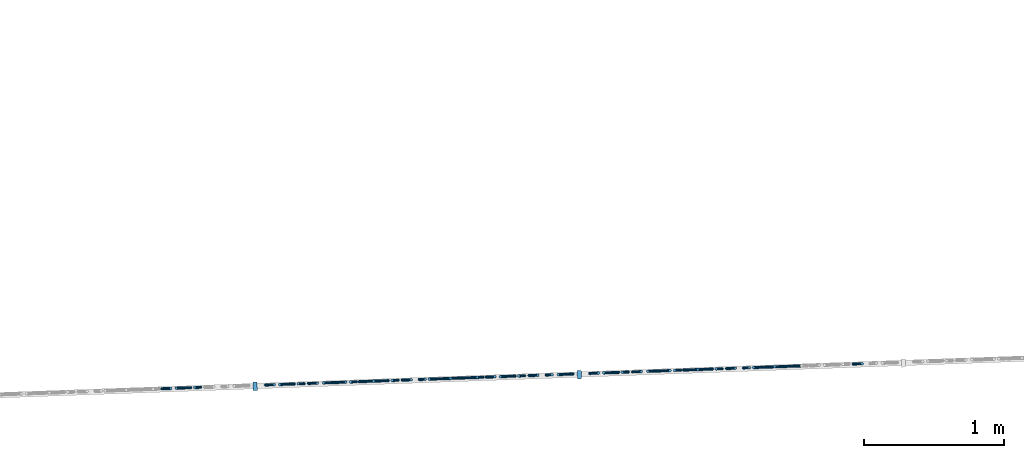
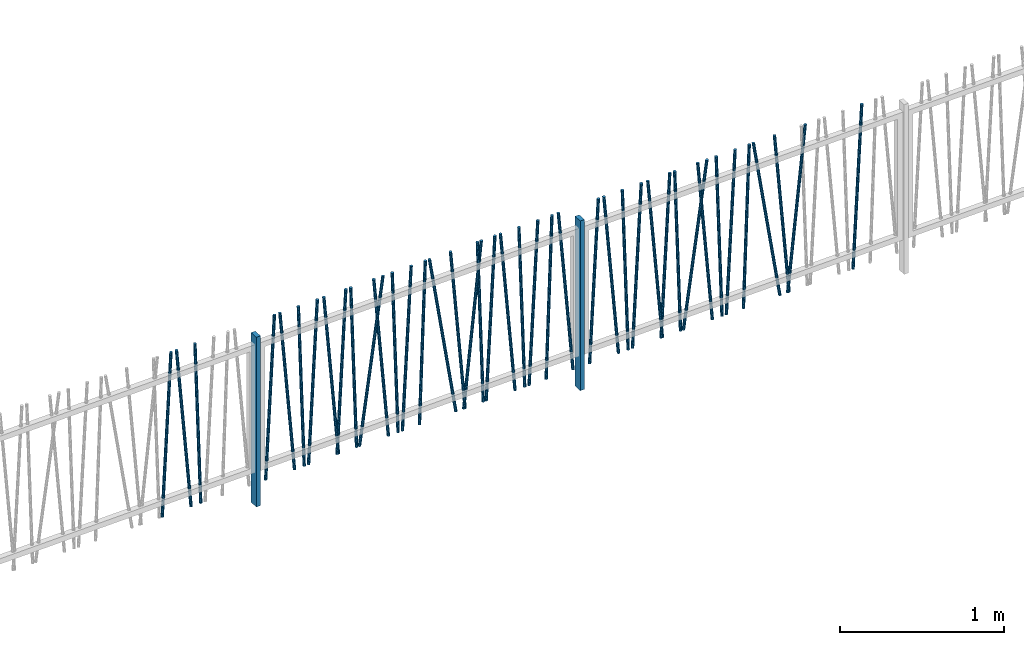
# One storey, part 2 of 171: 43 columns.
"""IFC2X3 building model written with IfcOpenShell, lengths in millimetres."""

from ifc_helpers import new_model, entity, si_unit, converted_unit, derived_unit, money_unit, direction, frame, origin_with_axes, origin_2d_with_axis, place, context, subcontext, project, spatial, rectangle, circle, extrude, clip, halfspace, material, type_object, element, save


model = new_model("IFC2X3")

# Units and contexts
model_context = context("Model", 3, precision=0.01, world=origin_with_axes(), true_north=direction((0.0, 1.0)))
body_context = subcontext(model_context, "Body", "Model", "MODEL_VIEW")
ifc_project = project(units=[si_unit("LENGTHUNIT", "METRE", prefix="MILLI"), si_unit("AREAUNIT", "SQUARE_METRE"), si_unit("VOLUMEUNIT", "CUBIC_METRE"), converted_unit("PLANEANGLEUNIT", "DEGREE", entity("IfcPlaneAngleMeasure", 0.0174532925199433), si_unit("PLANEANGLEUNIT", "RADIAN"), dimensions=[0, 0, 0, 0, 0, 0, 0]), money_unit("USD"), converted_unit("TIMEUNIT", "Year", entity("IfcTimeMeasure", 31557600.0), si_unit("TIMEUNIT", "SECOND"), dimensions=[0, 0, 1, 0, 0, 0, 0]), si_unit("MASSUNIT", "GRAM", prefix="KILO"), si_unit("THERMODYNAMICTEMPERATUREUNIT", "DEGREE_CELSIUS"), si_unit("LUMINOUSINTENSITYUNIT", "LUMEN"), si_unit("ENERGYUNIT", "JOULE", prefix="MEGA"), derived_unit("THERMALCONDUCTANCEUNIT", [(si_unit("POWERUNIT", "WATT"), 1), (si_unit("LENGTHUNIT", "METRE"), -1), (si_unit("THERMODYNAMICTEMPERATUREUNIT", "KELVIN"), -1)]), derived_unit("SPECIFICHEATCAPACITYUNIT", [(si_unit("ENERGYUNIT", "JOULE"), 1), (si_unit("MASSUNIT", "GRAM", prefix="KILO"), -1), (si_unit("THERMODYNAMICTEMPERATUREUNIT", "KELVIN"), -1)]), derived_unit("MASSDENSITYUNIT", [(si_unit("MASSUNIT", "GRAM", prefix="KILO"), 1), (si_unit("VOLUMEUNIT", "CUBIC_METRE"), -1)])], contexts=[model_context])

# Site, building, storey
site_placement = place(None, origin_with_axes())
site = spatial("IfcSite", under=ifc_project, at=site_placement, Name="Site", CompositionType="ELEMENT")
building_placement = place(site_placement, origin_with_axes())
building = spatial("IfcBuilding", under=site, at=building_placement, Name="Bâtiment", CompositionType="ELEMENT")
storey_placement = place(building_placement, frame((0.0, 0.0, 3000.0), z_axis=(0.0, 0.0, 1.0), x_axis=(1.0, 0.0, 0.0)))
storey = spatial("IfcBuildingStorey", under=building, at=storey_placement, Name="rdc", CompositionType="ELEMENT", Elevation=3000.0)

# Columns
ifc_material = material(Name="Empty Fill 2959611567")
column_type_1 = type_object("IfcColumnType", Name="Empty Fill 2959611567 D20", PredefinedType="NOTDEFINED")
column_1_placement = place(storey_placement, frame((2218070.771335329, -668109.1300341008, -1950.0), z_axis=(0.0, 0.0, 1.0), x_axis=(-0.03567989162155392, 0.9993632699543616, 0.0)))
element("IfcColumn", 1, at=column_1_placement, inside=storey, type_object=column_type_1, material=ifc_material, Name="Pilier-019", context=body_context, shape_type="Clipping", body=[
    clip(clip(extrude(circle(Radius=10.0, at=origin_2d_with_axis()), frame((0.0, -0.152502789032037, -1.743114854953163), z_axis=(0.0, 0.08715574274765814, 0.9961946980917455), x_axis=(1.0, 0.0, 0.0)), (0.0, 0.0, 1.0), 1208.083351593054), halfspace(frame((0.0, 0.0, 0.0), z_axis=(0.0, 0.0, 1.0), x_axis=(0.0, -1.0, 0.0)), True)), halfspace(frame((0.0, 0.0, 1200.0), z_axis=(0.0, 0.0, -1.0), x_axis=(0.0, 1.0, 0.0)), True)),
])
column_2_placement = place(storey_placement, frame((2217863.76282257, -668116.5207813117, -1950.0), z_axis=(0.0, 0.0, 1.0), x_axis=(0.03567989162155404, -0.9993632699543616, 0.0)))
element("IfcColumn", 2, at=column_2_placement, inside=storey, type_object=column_type_1, material=ifc_material, Name="Pilier-019", context=body_context, shape_type="Clipping", body=[
    clip(clip(extrude(circle(Radius=10.0, at=origin_2d_with_axis()), frame((0.0, -0.05485622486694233, -1.046719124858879), z_axis=(0.0, -0.05233595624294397, -0.9986295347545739), x_axis=(-1.0, 0.0, 0.0)), (0.0, 0.0, -1.0), 1203.743126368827), halfspace(frame((0.0, 0.0, 0.0), z_axis=(0.0, 0.0, 1.0), x_axis=(0.0, -1.0, 0.0)), True)), halfspace(frame((0.0, 0.0, 1200.0), z_axis=(0.0, 0.0, -1.0), x_axis=(0.0, 1.0, 0.0)), True)),
])
column_3_placement = place(storey_placement, frame((2218140.191452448, -668106.6515537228, -1950.0), z_axis=(0.0, 0.0, 1.0), x_axis=(-0.03567989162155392, 0.9993632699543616, 0.0)))
element("IfcColumn", 3, at=column_3_placement, inside=storey, type_object=column_type_1, material=ifc_material, Name="Pilier-019", context=body_context, shape_type="Clipping", body=[
    clip(clip(extrude(circle(Radius=10.0, at=origin_2d_with_axis()), frame((0.0, -0.02437434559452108, -0.6979899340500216), z_axis=(0.0, 0.03489949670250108, 0.9993908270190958), x_axis=(1.0, 0.0, 0.0)), (0.0, 0.0, 1.0), 1202.128283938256), halfspace(frame((0.0, 0.0, 0.0), z_axis=(0.0, 0.0, 1.0), x_axis=(0.0, -1.0, 0.0)), True)), halfspace(frame((0.0, 0.0, 1200.0), z_axis=(0.0, 0.0, -1.0), x_axis=(0.0, 1.0, 0.0)), True)),
])
column_4_placement = place(storey_placement, frame((2219117.615015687, -668071.7549672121, -1950.0), z_axis=(0.0, 0.0, 1.0), x_axis=(0.03567989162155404, -0.9993632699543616, 0.0)))
element("IfcColumn", 4, at=column_4_placement, inside=storey, type_object=column_type_1, material=ifc_material, Name="Pilier-019", context=body_context, shape_type="Clipping", body=[
    clip(clip(extrude(circle(Radius=10.0, at=origin_2d_with_axis()), frame((0.0, -0.05485622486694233, -1.046719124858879), z_axis=(0.0, -0.05233595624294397, -0.9986295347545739), x_axis=(-1.0, 0.0, 0.0)), (0.0, 0.0, -1.0), 1203.743126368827), halfspace(frame((0.0, 0.0, 0.0), z_axis=(0.0, 0.0, 1.0), x_axis=(0.0, -1.0, 0.0)), True)), halfspace(frame((0.0, 0.0, 1200.0), z_axis=(0.0, 0.0, -1.0), x_axis=(0.0, 1.0, 0.0)), True)),
])
column_5_placement = place(storey_placement, frame((2219554.893145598, -668056.1429903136, -1950.0), z_axis=(0.0, 0.0, 1.0), x_axis=(-0.03567989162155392, 0.9993632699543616, 0.0)))
element("IfcColumn", 5, at=column_5_placement, inside=storey, type_object=column_type_1, material=ifc_material, Name="Pilier-019", context=body_context, shape_type="Clipping", body=[
    clip(clip(extrude(circle(Radius=10.0, at=origin_2d_with_axis()), frame((0.0, -0.02437434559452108, -0.6979899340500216), z_axis=(0.0, 0.03489949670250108, 0.9993908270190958), x_axis=(1.0, 0.0, 0.0)), (0.0, 0.0, 1.0), 1202.128283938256), halfspace(frame((0.0, 0.0, 0.0), z_axis=(0.0, 0.0, 1.0), x_axis=(0.0, -1.0, 0.0)), True)), halfspace(frame((0.0, 0.0, 1200.0), z_axis=(0.0, 0.0, -1.0), x_axis=(0.0, 1.0, 0.0)), True)),
])
column_6_placement = place(storey_placement, frame((2219586.166374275, -668055.0264539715, -1950.0), z_axis=(0.0, 0.0, 1.0), x_axis=(0.03567989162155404, -0.9993632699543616, 0.0)))
element("IfcColumn", 6, at=column_6_placement, inside=storey, type_object=column_type_1, material=ifc_material, Name="Pilier-019", context=body_context, shape_type="Clipping", body=[
    clip(clip(extrude(circle(Radius=10.0, at=origin_2d_with_axis()), frame((0.0, -0.05485622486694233, -1.046719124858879), z_axis=(0.0, -0.05233595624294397, -0.9986295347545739), x_axis=(-1.0, 0.0, 0.0)), (0.0, 0.0, -1.0), 1203.743126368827), halfspace(frame((0.0, 0.0, 0.0), z_axis=(0.0, 0.0, 1.0), x_axis=(0.0, -1.0, 0.0)), True)), halfspace(frame((0.0, 0.0, 1200.0), z_axis=(0.0, 0.0, -1.0), x_axis=(0.0, 1.0, 0.0)), True)),
])
column_7_placement = place(storey_placement, frame((2219969.593255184, -668041.337107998, -1950.0), z_axis=(0.0, 0.0, 1.0), x_axis=(-0.03567989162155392, 0.9993632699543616, 0.0)))
element("IfcColumn", 7, at=column_7_placement, inside=storey, type_object=column_type_1, material=ifc_material, Name="Pilier-019", context=body_context, shape_type="Clipping", body=[
    clip(clip(extrude(circle(Radius=10.0, at=origin_2d_with_axis()), frame((0.0, -0.4955357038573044, -3.128689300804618), z_axis=(0.0, 0.1564344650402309, 0.9876883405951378), x_axis=(1.0, 0.0, 0.0)), (0.0, 0.0, 1.0), 1221.293528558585), halfspace(frame((0.0, 0.0, 0.0), z_axis=(0.0, 0.0, 1.0), x_axis=(0.0, -1.0, 0.0)), True)), halfspace(frame((0.0, 0.0, 1200.0), z_axis=(0.0, 0.0, -1.0), x_axis=(0.0, 1.0, 0.0)), True)),
])
for number, where, z_axis, x_axis, name in (
    (8, (2220809.176961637, -668011.3617661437, -1950.0), (0.0, 0.0, 1.0), (-0.03567989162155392, 0.9993632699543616, 0.0), "Pilier-019"),
    (9, (2220035.799577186, -668038.9733685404, -1950.0), (0.0, 0.0, 1.0), (-0.03567989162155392, 0.9993632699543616, 0.0), "Pilier-019"),
):
    element("IfcColumn", number, at=place(storey_placement, frame(where, z_axis=z_axis, x_axis=x_axis)), inside=storey, type_object=column_type_1, material=ifc_material, Name=name, context=body_context, shape_type="Clipping", body=[
        clip(clip(extrude(circle(Radius=10.0, at=origin_2d_with_axis()), frame((0.0, -0.152502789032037, -1.743114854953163), z_axis=(0.0, 0.08715574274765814, 0.9961946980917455), x_axis=(1.0, 0.0, 0.0)), (0.0, 0.0, 1.0), 1208.083351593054), halfspace(frame((0.0, 0.0, 0.0), z_axis=(0.0, 0.0, 1.0), x_axis=(0.0, -1.0, 0.0)), True)), halfspace(frame((0.0, 0.0, 1200.0), z_axis=(0.0, 0.0, -1.0), x_axis=(0.0, 1.0, 0.0)), True)),
    ])
column_8_placement = place(storey_placement, frame((2218913.159377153, -668079.054570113, -1950.0), z_axis=(0.0, 0.0, 1.0), x_axis=(0.03567989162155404, -0.9993632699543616, 0.0)))
element("IfcColumn", 10, at=column_8_placement, inside=storey, type_object=column_type_1, material=ifc_material, Name="Pilier-019", context=body_context, shape_type="Clipping", body=[
    clip(clip(extrude(circle(Radius=10.0, at=origin_2d_with_axis()), frame((0.0, -0.05485622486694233, -1.046719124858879), z_axis=(0.0, -0.05233595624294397, -0.9986295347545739), x_axis=(-1.0, 0.0, 0.0)), (0.0, 0.0, -1.0), 1203.743126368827), halfspace(frame((0.0, 0.0, 0.0), z_axis=(0.0, 0.0, 1.0), x_axis=(0.0, -1.0, 0.0)), True)), halfspace(frame((0.0, 0.0, 1200.0), z_axis=(0.0, 0.0, -1.0), x_axis=(0.0, 1.0, 0.0)), True)),
])
for number, where, z_axis, x_axis, name in (
    (11, (2219257.3435957, -668066.7662901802, -1950.0), (0.0, 0.0, 1.0), (-0.03567989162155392, 0.9993632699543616, 0.0), "Pilier-019"),
    (12, (2218881.886148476, -668080.171106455, -1950.0), (0.0, 0.0, 1.0), (-0.03567989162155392, 0.9993632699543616, 0.0), "Pilier-019"),
):
    element("IfcColumn", number, at=place(storey_placement, frame(where, z_axis=z_axis, x_axis=x_axis)), inside=storey, type_object=column_type_1, material=ifc_material, Name=name, context=body_context, shape_type="Clipping", body=[
        clip(clip(extrude(circle(Radius=10.0, at=origin_2d_with_axis()), frame((0.0, -0.02437434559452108, -0.6979899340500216), z_axis=(0.0, 0.03489949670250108, 0.9993908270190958), x_axis=(1.0, 0.0, 0.0)), (0.0, 0.0, 1.0), 1202.128283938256), halfspace(frame((0.0, 0.0, 0.0), z_axis=(0.0, 0.0, 1.0), x_axis=(0.0, -1.0, 0.0)), True)), halfspace(frame((0.0, 0.0, 1200.0), z_axis=(0.0, 0.0, -1.0), x_axis=(0.0, 1.0, 0.0)), True)),
    ])
column_9_placement = place(storey_placement, frame((2219278.46451572, -668066.0122179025, -1950.0), z_axis=(0.0, 0.0, 1.0), x_axis=(0.03567989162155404, -0.9993632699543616, 0.0)))
element("IfcColumn", 13, at=column_9_placement, inside=storey, type_object=column_type_1, material=ifc_material, Name="Pilier-019", context=body_context, shape_type="Clipping", body=[
    clip(clip(extrude(circle(Radius=10.0, at=origin_2d_with_axis()), frame((0.0, -0.3911900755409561, -2.78346201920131), z_axis=(0.0, -0.1391731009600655, -0.9902680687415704), x_axis=(-1.0, 0.0, 0.0)), (0.0, 0.0, -1.0), 1217.414720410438), halfspace(frame((0.0, 0.0, 0.0), z_axis=(0.0, 0.0, 1.0), x_axis=(0.0, -1.0, 0.0)), True)), halfspace(frame((0.0, 0.0, 1200.0), z_axis=(0.0, 0.0, -1.0), x_axis=(0.0, 1.0, 0.0)), True)),
])
column_10_placement = place(storey_placement, frame((2219485.473028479, -668058.6214706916, -1950.0), z_axis=(0.0, 0.0, 1.0), x_axis=(-0.03567989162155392, 0.9993632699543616, 0.0)))
element("IfcColumn", 14, at=column_10_placement, inside=storey, type_object=column_type_1, material=ifc_material, Name="Pilier-019", context=body_context, shape_type="Clipping", body=[
    clip(clip(extrude(circle(Radius=10.0, at=origin_2d_with_axis()), frame((0.0, -0.152502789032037, -1.743114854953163), z_axis=(0.0, 0.08715574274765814, 0.9961946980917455), x_axis=(1.0, 0.0, 0.0)), (0.0, 0.0, 1.0), 1208.083351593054), halfspace(frame((0.0, 0.0, 0.0), z_axis=(0.0, 0.0, 1.0), x_axis=(0.0, -1.0, 0.0)), True)), halfspace(frame((0.0, 0.0, 1200.0), z_axis=(0.0, 0.0, -1.0), x_axis=(0.0, 1.0, 0.0)), True)),
])
column_11_placement = place(storey_placement, frame((2220025.901242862, -668039.3267650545, -1950.0), z_axis=(0.0, 0.0, 1.0), x_axis=(0.03567989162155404, -0.9993632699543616, 0.0)))
element("IfcColumn", 15, at=column_11_placement, inside=storey, type_object=column_type_1, material=ifc_material, Name="Pilier-019", context=body_context, shape_type="Clipping", body=[
    clip(clip(extrude(circle(Radius=10.0, at=origin_2d_with_axis()), frame((0.0, -0.2197276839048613, -2.090569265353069), z_axis=(0.0, -0.1045284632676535, -0.9945218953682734), x_axis=(-1.0, 0.0, 0.0)), (0.0, 0.0, -1.0), 1210.814104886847), halfspace(frame((0.0, 0.0, 0.0), z_axis=(0.0, 0.0, 1.0), x_axis=(0.0, -1.0, 0.0)), True)), halfspace(frame((0.0, 0.0, 1200.0), z_axis=(0.0, 0.0, -1.0), x_axis=(0.0, 1.0, 0.0)), True)),
])
column_12_placement = place(storey_placement, frame((2220463.179372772, -668023.714788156, -1950.0), z_axis=(0.0, 0.0, 1.0), x_axis=(-0.03567989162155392, 0.9993632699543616, 0.0)))
element("IfcColumn", 16, at=column_12_placement, inside=storey, type_object=column_type_1, material=ifc_material, Name="Pilier-019", context=body_context, shape_type="Clipping", body=[
    clip(clip(extrude(circle(Radius=10.0, at=origin_2d_with_axis()), frame((0.0, -0.02437434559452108, -0.6979899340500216), z_axis=(0.0, 0.03489949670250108, 0.9993908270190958), x_axis=(1.0, 0.0, 0.0)), (0.0, 0.0, 1.0), 1202.128283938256), halfspace(frame((0.0, 0.0, 0.0), z_axis=(0.0, 0.0, 1.0), x_axis=(0.0, -1.0, 0.0)), True)), halfspace(frame((0.0, 0.0, 1200.0), z_axis=(0.0, 0.0, -1.0), x_axis=(0.0, 1.0, 0.0)), True)),
])
column_13_placement = place(storey_placement, frame((2220494.452601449, -668022.598251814, -1950.0), z_axis=(0.0, 0.0, 1.0), x_axis=(0.03567989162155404, -0.9993632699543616, 0.0)))
element("IfcColumn", 17, at=column_13_placement, inside=storey, type_object=column_type_1, material=ifc_material, Name="Pilier-019", context=body_context, shape_type="Clipping", body=[
    clip(clip(extrude(circle(Radius=10.0, at=origin_2d_with_axis()), frame((0.0, -0.05485622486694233, -1.046719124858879), z_axis=(0.0, -0.05233595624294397, -0.9986295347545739), x_axis=(-1.0, 0.0, 0.0)), (0.0, 0.0, -1.0), 1203.743126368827), halfspace(frame((0.0, 0.0, 0.0), z_axis=(0.0, 0.0, 1.0), x_axis=(0.0, -1.0, 0.0)), True)), halfspace(frame((0.0, 0.0, 1200.0), z_axis=(0.0, 0.0, -1.0), x_axis=(0.0, 1.0, 0.0)), True)),
])
column_14_placement = place(storey_placement, frame((2219127.513350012, -668071.4015706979, -1950.0), z_axis=(0.0, 0.0, 1.0), x_axis=(-0.03567989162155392, 0.9993632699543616, 0.0)))
element("IfcColumn", 18, at=column_14_placement, inside=storey, type_object=column_type_1, material=ifc_material, Name="Pilier-019", context=body_context, shape_type="Clipping", body=[
    clip(clip(extrude(circle(Radius=10.0, at=origin_2d_with_axis()), frame((0.0, -0.152502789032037, -1.743114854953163), z_axis=(0.0, 0.08715574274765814, 0.9961946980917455), x_axis=(1.0, 0.0, 0.0)), (0.0, 0.0, 1.0), 1208.083351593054), halfspace(frame((0.0, 0.0, 0.0), z_axis=(0.0, 0.0, 1.0), x_axis=(0.0, -1.0, 0.0)), True)), halfspace(frame((0.0, 0.0, 1200.0), z_axis=(0.0, 0.0, -1.0), x_axis=(0.0, 1.0, 0.0)), True)),
])
column_15_placement = place(storey_placement, frame((2220616.707676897, -668018.2334247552, -1950.0), z_axis=(0.0, 0.0, 1.0), x_axis=(0.03567989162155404, -0.9993632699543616, 0.0)))
element("IfcColumn", 19, at=column_15_placement, inside=storey, type_object=column_type_1, material=ifc_material, Name="Pilier-019", context=body_context, shape_type="Clipping", body=[
    clip(clip(extrude(circle(Radius=10.0, at=origin_2d_with_axis()), frame((0.0, -0.02437434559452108, -0.6979899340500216), z_axis=(0.0, -0.03489949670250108, -0.9993908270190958), x_axis=(-1.0, 0.0, 0.0)), (0.0, 0.0, -1.0), 1202.128283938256), halfspace(frame((0.0, 0.0, 0.0), z_axis=(0.0, 0.0, 1.0), x_axis=(0.0, -1.0, 0.0)), True)), halfspace(frame((0.0, 0.0, 1200.0), z_axis=(0.0, 0.0, -1.0), x_axis=(0.0, 1.0, 0.0)), True)),
])
column_16_placement = place(storey_placement, frame((2220186.750742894, -668033.5840157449, -1950.0), z_axis=(0.0, 0.0, 1.0), x_axis=(0.03567989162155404, -0.9993632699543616, 0.0)))
element("IfcColumn", 20, at=column_16_placement, inside=storey, type_object=column_type_1, material=ifc_material, Name="Pilier-019", context=body_context, shape_type="Clipping", body=[
    clip(clip(extrude(circle(Radius=10.0, at=origin_2d_with_axis()), frame((0.0, -0.05485622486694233, -1.046719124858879), z_axis=(0.0, -0.05233595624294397, -0.9986295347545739), x_axis=(-1.0, 0.0, 0.0)), (0.0, 0.0, -1.0), 1203.743126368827), halfspace(frame((0.0, 0.0, 0.0), z_axis=(0.0, 0.0, 1.0), x_axis=(0.0, -1.0, 0.0)), True)), halfspace(frame((0.0, 0.0, 1200.0), z_axis=(0.0, 0.0, -1.0), x_axis=(0.0, 1.0, 0.0)), True)),
])
column_17_placement = place(storey_placement, frame((2220393.759255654, -668026.193268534, -1950.0), z_axis=(0.0, 0.0, 1.0), x_axis=(-0.03567989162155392, 0.9993632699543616, 0.0)))
element("IfcColumn", 21, at=column_17_placement, inside=storey, type_object=column_type_1, material=ifc_material, Name="Pilier-019", context=body_context, shape_type="Clipping", body=[
    clip(clip(extrude(circle(Radius=10.0, at=origin_2d_with_axis()), frame((0.0, -0.152502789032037, -1.743114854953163), z_axis=(0.0, 0.08715574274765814, 0.9961946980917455), x_axis=(1.0, 0.0, 0.0)), (0.0, 0.0, 1.0), 1208.083351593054), halfspace(frame((0.0, 0.0, 0.0), z_axis=(0.0, 0.0, 1.0), x_axis=(0.0, -1.0, 0.0)), True)), halfspace(frame((0.0, 0.0, 1200.0), z_axis=(0.0, 0.0, -1.0), x_axis=(0.0, 1.0, 0.0)), True)),
])
column_18_placement = place(storey_placement, frame((2220165.629822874, -668034.3380880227, -1950.0), z_axis=(0.0, 0.0, 1.0), x_axis=(-0.03567989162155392, 0.9993632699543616, 0.0)))
element("IfcColumn", 22, at=column_18_placement, inside=storey, type_object=column_type_1, material=ifc_material, Name="Pilier-019", context=body_context, shape_type="Clipping", body=[
    clip(clip(extrude(circle(Radius=10.0, at=origin_2d_with_axis()), frame((0.0, -0.02437434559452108, -0.6979899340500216), z_axis=(0.0, 0.03489949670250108, 0.9993908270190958), x_axis=(1.0, 0.0, 0.0)), (0.0, 0.0, 1.0), 1202.128283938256), halfspace(frame((0.0, 0.0, 0.0), z_axis=(0.0, 0.0, 1.0), x_axis=(0.0, -1.0, 0.0)), True)), halfspace(frame((0.0, 0.0, 1200.0), z_axis=(0.0, 0.0, -1.0), x_axis=(0.0, 1.0, 0.0)), True)),
])
column_19_placement = place(storey_placement, frame((2218812.466031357, -668082.6495868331, -1950.0), z_axis=(0.0, 0.0, 1.0), x_axis=(-0.03567989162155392, 0.9993632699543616, 0.0)))
element("IfcColumn", 23, at=column_19_placement, inside=storey, type_object=column_type_1, material=ifc_material, Name="Pilier-019", context=body_context, shape_type="Clipping", body=[
    clip(clip(extrude(circle(Radius=10.0, at=origin_2d_with_axis()), frame((0.0, -0.152502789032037, -1.743114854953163), z_axis=(0.0, 0.08715574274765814, 0.9961946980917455), x_axis=(1.0, 0.0, 0.0)), (0.0, 0.0, 1.0), 1208.083351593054), halfspace(frame((0.0, 0.0, 0.0), z_axis=(0.0, 0.0, 1.0), x_axis=(0.0, -1.0, 0.0)), True)), halfspace(frame((0.0, 0.0, 1200.0), z_axis=(0.0, 0.0, -1.0), x_axis=(0.0, 1.0, 0.0)), True)),
])
for number, where, z_axis, x_axis, name in (
    (24, (2218605.457518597, -668090.0403340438, -1950.0), (0.0, 0.0, 1.0), (0.03567989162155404, -0.9993632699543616, 0.0), "Pilier-019"),
    (25, (2221440.602936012, -667988.8182016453, -1950.0), (0.0, 0.0, 1.0), (0.03567989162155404, -0.9993632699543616, 0.0), "Pilier-019"),
):
    element("IfcColumn", number, at=place(storey_placement, frame(where, z_axis=z_axis, x_axis=x_axis)), inside=storey, type_object=column_type_1, material=ifc_material, Name=name, context=body_context, shape_type="Clipping", body=[
        clip(clip(extrude(circle(Radius=10.0, at=origin_2d_with_axis()), frame((0.0, -0.05485622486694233, -1.046719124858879), z_axis=(0.0, -0.05233595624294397, -0.9986295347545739), x_axis=(-1.0, 0.0, 0.0)), (0.0, 0.0, -1.0), 1203.743126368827), halfspace(frame((0.0, 0.0, 0.0), z_axis=(0.0, 0.0, 1.0), x_axis=(0.0, -1.0, 0.0)), True)), halfspace(frame((0.0, 0.0, 1200.0), z_axis=(0.0, 0.0, -1.0), x_axis=(0.0, 1.0, 0.0)), True)),
    ])
column_20_placement = place(storey_placement, frame((2222031.409370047, -667967.724861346, -1950.0), z_axis=(0.0, 0.0, 1.0), x_axis=(0.03567989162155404, -0.9993632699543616, 0.0)))
element("IfcColumn", 26, at=column_20_placement, inside=storey, type_object=column_type_1, material=ifc_material, Name="Pilier-019", context=body_context, shape_type="Clipping", body=[
    clip(clip(extrude(circle(Radius=10.0, at=origin_2d_with_axis()), frame((0.0, -0.02437434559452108, -0.6979899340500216), z_axis=(0.0, -0.03489949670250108, -0.9993908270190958), x_axis=(-1.0, 0.0, 0.0)), (0.0, 0.0, -1.0), 1202.128283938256), halfspace(frame((0.0, 0.0, 0.0), z_axis=(0.0, 0.0, 1.0), x_axis=(0.0, -1.0, 0.0)), True)), halfspace(frame((0.0, 0.0, 1200.0), z_axis=(0.0, 0.0, -1.0), x_axis=(0.0, 1.0, 0.0)), True)),
])
column_21_placement = place(storey_placement, frame((2221580.331516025, -667983.8295246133, -1950.0), z_axis=(0.0, 0.0, 1.0), x_axis=(-0.03567989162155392, 0.9993632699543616, 0.0)))
element("IfcColumn", 27, at=column_21_placement, inside=storey, type_object=column_type_1, material=ifc_material, Name="Pilier-019", context=body_context, shape_type="Clipping", body=[
    clip(clip(extrude(circle(Radius=10.0, at=origin_2d_with_axis()), frame((0.0, -0.02437434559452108, -0.6979899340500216), z_axis=(0.0, 0.03489949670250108, 0.9993908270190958), x_axis=(1.0, 0.0, 0.0)), (0.0, 0.0, 1.0), 1202.128283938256), halfspace(frame((0.0, 0.0, 0.0), z_axis=(0.0, 0.0, 1.0), x_axis=(0.0, -1.0, 0.0)), True)), halfspace(frame((0.0, 0.0, 1200.0), z_axis=(0.0, 0.0, -1.0), x_axis=(0.0, 1.0, 0.0)), True)),
])
column_22_placement = place(storey_placement, frame((2221909.154294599, -667972.0896884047, -1950.0), z_axis=(0.0, 0.0, 1.0), x_axis=(0.03567989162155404, -0.9993632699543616, 0.0)))
element("IfcColumn", 28, at=column_22_placement, inside=storey, type_object=column_type_1, material=ifc_material, Name="Pilier-019", context=body_context, shape_type="Clipping", body=[
    clip(clip(extrude(circle(Radius=10.0, at=origin_2d_with_axis()), frame((0.0, -0.05485622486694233, -1.046719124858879), z_axis=(0.0, -0.05233595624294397, -0.9986295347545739), x_axis=(-1.0, 0.0, 0.0)), (0.0, 0.0, -1.0), 1203.743126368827), halfspace(frame((0.0, 0.0, 0.0), z_axis=(0.0, 0.0, 1.0), x_axis=(0.0, -1.0, 0.0)), True)), halfspace(frame((0.0, 0.0, 1200.0), z_axis=(0.0, 0.0, -1.0), x_axis=(0.0, 1.0, 0.0)), True)),
])
column_23_placement = place(storey_placement, frame((2222292.581175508, -667958.4003424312, -1950.0), z_axis=(0.0, 0.0, 1.0), x_axis=(-0.03567989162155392, 0.9993632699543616, 0.0)))
element("IfcColumn", 29, at=column_23_placement, inside=storey, type_object=column_type_1, material=ifc_material, Name="Pilier-019", context=body_context, shape_type="Clipping", body=[
    clip(clip(extrude(circle(Radius=10.0, at=origin_2d_with_axis()), frame((0.0, -0.4955357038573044, -3.128689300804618), z_axis=(0.0, 0.1564344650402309, 0.9876883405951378), x_axis=(1.0, 0.0, 0.0)), (0.0, 0.0, 1.0), 1221.293528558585), halfspace(frame((0.0, 0.0, 0.0), z_axis=(0.0, 0.0, 1.0), x_axis=(0.0, -1.0, 0.0)), True)), halfspace(frame((0.0, 0.0, 1200.0), z_axis=(0.0, 0.0, -1.0), x_axis=(0.0, 1.0, 0.0)), True)),
])
column_24_placement = place(storey_placement, frame((2222358.78749751, -667956.0366029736, -1950.0), z_axis=(0.0, 0.0, 1.0), x_axis=(-0.03567989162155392, 0.9993632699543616, 0.0)))
element("IfcColumn", 30, at=column_24_placement, inside=storey, type_object=column_type_1, material=ifc_material, Name="Pilier-019", context=body_context, shape_type="Clipping", body=[
    clip(clip(extrude(circle(Radius=10.0, at=origin_2d_with_axis()), frame((0.0, -0.152502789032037, -1.743114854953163), z_axis=(0.0, 0.08715574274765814, 0.9961946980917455), x_axis=(1.0, 0.0, 0.0)), (0.0, 0.0, 1.0), 1208.083351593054), halfspace(frame((0.0, 0.0, 0.0), z_axis=(0.0, 0.0, 1.0), x_axis=(0.0, -1.0, 0.0)), True)), halfspace(frame((0.0, 0.0, 1200.0), z_axis=(0.0, 0.0, -1.0), x_axis=(0.0, 1.0, 0.0)), True)),
])
column_25_placement = place(storey_placement, frame((2221877.881065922, -667973.2062247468, -1950.0), z_axis=(0.0, 0.0, 1.0), x_axis=(-0.03567989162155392, 0.9993632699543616, 0.0)))
element("IfcColumn", 31, at=column_25_placement, inside=storey, type_object=column_type_1, material=ifc_material, Name="Pilier-019", context=body_context, shape_type="Clipping", body=[
    clip(clip(extrude(circle(Radius=10.0, at=origin_2d_with_axis()), frame((0.0, -0.02437434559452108, -0.6979899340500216), z_axis=(0.0, 0.03489949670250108, 0.9993908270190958), x_axis=(1.0, 0.0, 0.0)), (0.0, 0.0, 1.0), 1202.128283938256), halfspace(frame((0.0, 0.0, 0.0), z_axis=(0.0, 0.0, 1.0), x_axis=(0.0, -1.0, 0.0)), True)), halfspace(frame((0.0, 0.0, 1200.0), z_axis=(0.0, 0.0, -1.0), x_axis=(0.0, 1.0, 0.0)), True)),
])
column_26_placement = place(storey_placement, frame((2221450.501270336, -667988.4648051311, -1950.0), z_axis=(0.0, 0.0, 1.0), x_axis=(-0.03567989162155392, 0.9993632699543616, 0.0)))
element("IfcColumn", 32, at=column_26_placement, inside=storey, type_object=column_type_1, material=ifc_material, Name="Pilier-019", context=body_context, shape_type="Clipping", body=[
    clip(clip(extrude(circle(Radius=10.0, at=origin_2d_with_axis()), frame((0.0, -0.152502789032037, -1.743114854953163), z_axis=(0.0, 0.08715574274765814, 0.9961946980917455), x_axis=(1.0, 0.0, 0.0)), (0.0, 0.0, 1.0), 1208.083351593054), halfspace(frame((0.0, 0.0, 0.0), z_axis=(0.0, 0.0, 1.0), x_axis=(0.0, -1.0, 0.0)), True)), halfspace(frame((0.0, 0.0, 1200.0), z_axis=(0.0, 0.0, -1.0), x_axis=(0.0, 1.0, 0.0)), True)),
])
column_27_placement = place(storey_placement, frame((2221204.874068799, -667997.2343408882, -1950.0), z_axis=(0.0, 0.0, 1.0), x_axis=(-0.03567989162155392, 0.9993632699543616, 0.0)))
element("IfcColumn", 33, at=column_27_placement, inside=storey, type_object=column_type_1, material=ifc_material, Name="Pilier-019", context=body_context, shape_type="Clipping", body=[
    clip(clip(extrude(circle(Radius=10.0, at=origin_2d_with_axis()), frame((0.0, -0.02437434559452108, -0.6979899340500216), z_axis=(0.0, 0.03489949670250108, 0.9993908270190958), x_axis=(1.0, 0.0, 0.0)), (0.0, 0.0, 1.0), 1202.128283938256), halfspace(frame((0.0, 0.0, 0.0), z_axis=(0.0, 0.0, 1.0), x_axis=(0.0, -1.0, 0.0)), True)), halfspace(frame((0.0, 0.0, 1200.0), z_axis=(0.0, 0.0, -1.0), x_axis=(0.0, 1.0, 0.0)), True)),
])
column_28_placement = place(storey_placement, frame((2221808.460948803, -667975.6847051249, -1950.0), z_axis=(0.0, 0.0, 1.0), x_axis=(-0.03567989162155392, 0.9993632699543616, 0.0)))
element("IfcColumn", 34, at=column_28_placement, inside=storey, type_object=column_type_1, material=ifc_material, Name="Pilier-019", context=body_context, shape_type="Clipping", body=[
    clip(clip(extrude(circle(Radius=10.0, at=origin_2d_with_axis()), frame((0.0, -0.152502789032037, -1.743114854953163), z_axis=(0.0, 0.08715574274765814, 0.9961946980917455), x_axis=(1.0, 0.0, 0.0)), (0.0, 0.0, 1.0), 1208.083351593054), halfspace(frame((0.0, 0.0, 0.0), z_axis=(0.0, 0.0, 1.0), x_axis=(0.0, -1.0, 0.0)), True)), halfspace(frame((0.0, 0.0, 1200.0), z_axis=(0.0, 0.0, -1.0), x_axis=(0.0, 1.0, 0.0)), True)),
])
column_29_placement = place(storey_placement, frame((2221601.452436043, -667983.0754523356, -1950.0), z_axis=(0.0, 0.0, 1.0), x_axis=(0.03567989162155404, -0.9993632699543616, 0.0)))
element("IfcColumn", 35, at=column_29_placement, inside=storey, type_object=column_type_1, material=ifc_material, Name="Pilier-019", context=body_context, shape_type="Clipping", body=[
    clip(clip(extrude(circle(Radius=10.0, at=origin_2d_with_axis()), frame((0.0, -0.3911900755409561, -2.78346201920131), z_axis=(0.0, -0.1391731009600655, -0.9902680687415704), x_axis=(-1.0, 0.0, 0.0)), (0.0, 0.0, -1.0), 1217.414720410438), halfspace(frame((0.0, 0.0, 0.0), z_axis=(0.0, 0.0, 1.0), x_axis=(0.0, -1.0, 0.0)), True)), halfspace(frame((0.0, 0.0, 1200.0), z_axis=(0.0, 0.0, -1.0), x_axis=(0.0, 1.0, 0.0)), True)),
])
column_30_placement = place(storey_placement, frame((2222817.440521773, -667939.6614862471, -1950.0), z_axis=(0.0, 0.0, 1.0), x_axis=(0.03567989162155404, -0.9993632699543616, 0.0)))
element("IfcColumn", 36, at=column_30_placement, inside=storey, type_object=column_type_1, material=ifc_material, Name="Pilier-019", context=body_context, shape_type="Clipping", body=[
    clip(clip(extrude(circle(Radius=10.0, at=origin_2d_with_axis()), frame((0.0, -0.05485622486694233, -1.046719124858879), z_axis=(0.0, -0.05233595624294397, -0.9986295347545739), x_axis=(-1.0, 0.0, 0.0)), (0.0, 0.0, -1.0), 1203.743126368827), halfspace(frame((0.0, 0.0, 0.0), z_axis=(0.0, 0.0, 1.0), x_axis=(0.0, -1.0, 0.0)), True)), halfspace(frame((0.0, 0.0, 1200.0), z_axis=(0.0, 0.0, -1.0), x_axis=(0.0, 1.0, 0.0)), True)),
])
column_31_placement = place(storey_placement, frame((2222348.889163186, -667956.3899994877, -1950.0), z_axis=(0.0, 0.0, 1.0), x_axis=(0.03567989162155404, -0.9993632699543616, 0.0)))
element("IfcColumn", 37, at=column_31_placement, inside=storey, type_object=column_type_1, material=ifc_material, Name="Pilier-019", context=body_context, shape_type="Clipping", body=[
    clip(clip(extrude(circle(Radius=10.0, at=origin_2d_with_axis()), frame((0.0, -0.2197276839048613, -2.090569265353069), z_axis=(0.0, -0.1045284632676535, -0.9945218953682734), x_axis=(-1.0, 0.0, 0.0)), (0.0, 0.0, -1.0), 1210.814104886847), halfspace(frame((0.0, 0.0, 0.0), z_axis=(0.0, 0.0, 1.0), x_axis=(0.0, -1.0, 0.0)), True)), halfspace(frame((0.0, 0.0, 1200.0), z_axis=(0.0, 0.0, -1.0), x_axis=(0.0, 1.0, 0.0)), True)),
])
column_32_placement = place(storey_placement, frame((2219708.421449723, -668050.6616269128, -1950.0), z_axis=(0.0, 0.0, 1.0), x_axis=(0.03567989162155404, -0.9993632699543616, 0.0)))
element("IfcColumn", 38, at=column_32_placement, inside=storey, type_object=column_type_1, material=ifc_material, Name="Pilier-019", context=body_context, shape_type="Clipping", body=[
    clip(clip(extrude(circle(Radius=10.0, at=origin_2d_with_axis()), frame((0.0, -0.02437434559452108, -0.6979899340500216), z_axis=(0.0, -0.03489949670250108, -0.9993908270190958), x_axis=(-1.0, 0.0, 0.0)), (0.0, 0.0, -1.0), 1202.128283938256), halfspace(frame((0.0, 0.0, 0.0), z_axis=(0.0, 0.0, 1.0), x_axis=(0.0, -1.0, 0.0)), True)), halfspace(frame((0.0, 0.0, 1200.0), z_axis=(0.0, 0.0, -1.0), x_axis=(0.0, 1.0, 0.0)), True)),
])
column_33_placement = place(storey_placement, frame((2221135.453951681, -667999.7128212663, -1950.0), z_axis=(0.0, 0.0, 1.0), x_axis=(-0.03567989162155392, 0.9993632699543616, 0.0)))
element("IfcColumn", 39, at=column_33_placement, inside=storey, type_object=column_type_1, material=ifc_material, Name="Pilier-019", context=body_context, shape_type="Clipping", body=[
    clip(clip(extrude(circle(Radius=10.0, at=origin_2d_with_axis()), frame((0.0, -0.152502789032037, -1.743114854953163), z_axis=(0.0, 0.08715574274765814, 0.9961946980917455), x_axis=(1.0, 0.0, 0.0)), (0.0, 0.0, 1.0), 1208.083351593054), halfspace(frame((0.0, 0.0, 0.0), z_axis=(0.0, 0.0, 1.0), x_axis=(0.0, -1.0, 0.0)), True)), halfspace(frame((0.0, 0.0, 1200.0), z_axis=(0.0, 0.0, -1.0), x_axis=(0.0, 1.0, 0.0)), True)),
])
for number, where, z_axis, x_axis, name in (
    (40, (2221236.147297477, -667996.1178045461, -1950.0), (0.0, 0.0, 1.0), (0.03567989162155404, -0.9993632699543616, 0.0), "Pilier-019"),
    (41, (2220928.445438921, -668007.103568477, -1950.0), (0.0, 0.0, 1.0), (0.03567989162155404, -0.9993632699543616, 0.0), "Pilier-019"),
):
    element("IfcColumn", number, at=place(storey_placement, frame(where, z_axis=z_axis, x_axis=x_axis)), inside=storey, type_object=column_type_1, material=ifc_material, Name=name, context=body_context, shape_type="Clipping", body=[
        clip(clip(extrude(circle(Radius=10.0, at=origin_2d_with_axis()), frame((0.0, -0.05485622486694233, -1.046719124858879), z_axis=(0.0, -0.05233595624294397, -0.9986295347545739), x_axis=(-1.0, 0.0, 0.0)), (0.0, 0.0, -1.0), 1203.743126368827), halfspace(frame((0.0, 0.0, 0.0), z_axis=(0.0, 0.0, 1.0), x_axis=(0.0, -1.0, 0.0)), True)), halfspace(frame((0.0, 0.0, 1200.0), z_axis=(0.0, 0.0, -1.0), x_axis=(0.0, 1.0, 0.0)), True)),
    ])
column_type_2 = type_object("IfcColumnType", Name="Empty Fill 2959611567 30 x 60", PredefinedType="NOTDEFINED")
for number, where, z_axis, x_axis, name in (
    (42, (2218531.228353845, -668098.720512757, -2100.0), (0.0, 0.0, 1.0), (0.9993632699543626, 0.03567989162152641, 0.0), "Pilier-019"),
    (43, (2220854.216274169, -668015.78374719, -2100.0), (0.0, 0.0, 1.0), (0.9993632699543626, 0.03567989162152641, 0.0), "Pilier-019"),
):
    element("IfcColumn", number, at=place(storey_placement, frame(where, z_axis=z_axis, x_axis=x_axis)), inside=storey, type_object=column_type_2, material=ifc_material, Name=name, context=body_context, shape_type="SweptSolid", body=[
        extrude(rectangle(XDim=30.0, YDim=60.0, at=origin_2d_with_axis()), origin_with_axes(), (0.0, 0.0, 1.0), 1260.0),
    ])

save(model, "model.ifc")
